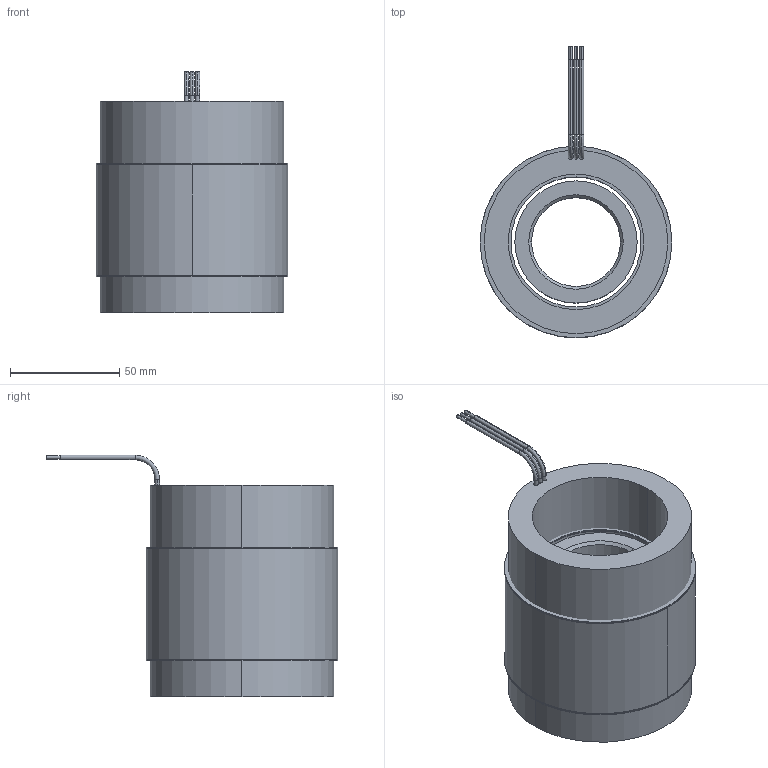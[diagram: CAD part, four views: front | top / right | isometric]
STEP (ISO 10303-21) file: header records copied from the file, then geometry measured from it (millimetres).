
FILE_DESCRIPTION (( 'STEP AP214' ), '1' );
FILE_NAME ('6100253-02.STEP', '2019-11-11T17:19:46', ( '' ), ( '' ), 'SwSTEP 2.0', 'SolidWorks 2016', '' );
FILE_SCHEMA (( 'AUTOMOTIVE_DESIGN' ));
Length unit declared in the file: millimetre
Products named in the file (11): 4600517-00; 4450152-XX_4450152-01; 6100253-02; COMP4500514-XX(COIL)_COMP4500514-01(COIL); 4400055-00; 4250338-XX_4250338-01; 4150142-XX_4150142-01; 4500514-XX_4500514-02
Assembly tree (10 placements, depth 4):
  6100253-02
    4500514-XX_4500514-02
      4450152-XX_4450152-01
        4450152-XX_4450152-01
        4400055-00
        4400055-00
        4600517-00
        4600517-00
      COMP4500514-XX(COIL)_COMP4500514-01(COIL)
    4250338-XX_4250338-01
      4150142-XX_4150142-01
Bounding box: 87.63 x 133.34 x 110.49 mm (x, y, z)
Volume: 471469 mm3; surface area: 124525.8 mm2
Topology: 7 solids, 7 shells, 91 faces, 203 edges, 132 vertices
Faces by surface type: cylinder 61, plane 20, torus 6, cone 4
Entity records: 3031 total; most frequent: DIRECTION 555, CARTESIAN_POINT 442, ORIENTED_EDGE 406, AXIS2_PLACEMENT_3D 245, EDGE_CURVE 203, CIRCLE 138, VERTEX_POINT 132, EDGE_LOOP 111
